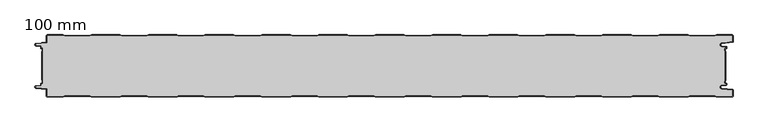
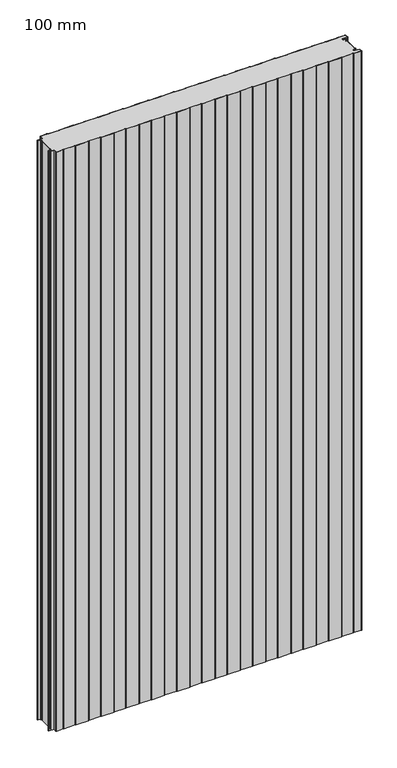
"""IFC4 building model written with IfcOpenShell, lengths in millimetres: plate geometry, HIANSA PANEL - H20.F03.001-PANEL FRIGORÍFICO - PANEL FRIGO - Panel de Muro Cortina : 100 mm."""

from ifc_helpers import new_model, si_unit, point, frame_2d, origin, origin_with_axes, place, context, project, spatial, polyline, circle_curve, trimmed, segment, composite_curve, outline, extrude, source, transform, mapped, element, save


def plate_100_mm_e887709b(model_context):
    return source(origin(), model_context, "Body", "SweptSolid", [
        extrude(outline(polyline([(555.9827922, -74.0), (555.9827922, -26.0), (556.4221321, -26.6713576), (556.4221321, -73.3286424), (555.9827922, -74.0)])), origin_with_axes(), (0.0, 0.0, 1.0), 2200.0),
        extrude(outline(polyline([(-538.5172078, -26.0), (-538.5172078, -74.0), (-539.1172077, -72.9695032), (-539.1172077, -27.0304968), (-538.5172078, -26.0)])), origin_with_axes(), (0.0, 0.0, 1.0), 2200.0),
        extrude(outline(composite_curve([segment(polyline([(-370.9360691, -1.5), (-411.0983467, -1.5), (-414.0983467, -0.5), (-458.9360691, -0.5), (-461.9360691, -1.5), (-502.0983467, -1.5), (-505.0983467, -0.5), (-529.9172079, -0.5)]), True, "CONTINUOUS"), segment(trimmed(circle_curve(frame_2d((-529.9172079, -1.6)), 1.1), [point((-529.9172079, -0.5))], [point((-531.0172079, -1.6))], True, "CARTESIAN"), True, "CONTINUOUS"), segment(polyline([(-531.0172079, -1.6), (-531.0172079, -11.7987531)]), True, "CONTINUOUS"), segment(trimmed(circle_curve(frame_2d((-532.0172079, -11.7987531)), 1.0), [point((-531.0172079, -11.7987531))], [point((-531.9177042, -12.7937903))], False, "CARTESIAN"), True, "CONTINUOUS"), segment(polyline([(-531.9177042, -12.7937903), (-548.0592062, -14.4079404)]), True, "CONTINUOUS"), segment(trimmed(circle_curve(frame_2d((-547.9000002, -15.9999999)), 1.6), [point((-548.0592062, -14.4079404))], [point((-548.0592062, -17.5920594))], True, "CARTESIAN"), True, "CONTINUOUS"), segment(polyline([(-548.0592062, -17.5920594), (-541.4177042, -18.2562097)]), True, "CONTINUOUS"), segment(trimmed(circle_curve(frame_2d((-541.5172079, -19.2512469)), 1.0), [point((-541.4177042, -18.2562097))], [point((-540.5172079, -19.2512469))], False, "CARTESIAN"), True, "CONTINUOUS"), segment(polyline([(-540.5172079, -19.2512469), (-540.5172079, -21.5), (-539.0172079, -21.5)]), True, "CONTINUOUS"), segment(trimmed(circle_curve(frame_2d((-539.0172079, -22.5)), 1.0), [point((-539.0172079, -21.5))], [point((-538.0172079, -22.5))], False, "CARTESIAN"), True, "CONTINUOUS"), segment(polyline([(-538.0172079, -22.5), (-538.0172079, -25.1412526), (-538.5172079, -26.0), (-538.5172079, -22.0), (-540.0172079, -22.0)]), True, "CONTINUOUS"), segment(trimmed(circle_curve(frame_2d((-540.0172079, -21.0)), 1.0), [point((-540.0172079, -22.0))], [point((-541.0172079, -21.0))], False, "CARTESIAN"), True, "CONTINUOUS"), segment(polyline([(-541.0172079, -21.0), (-541.0172079, -18.7987531), (-548.1089579, -18.0895783)]), True, "CONTINUOUS"), segment(trimmed(circle_curve(frame_2d((-547.9000002, -16.0000002)), 2.1), [point((-548.1089579, -18.0895783))], [point((-548.108958, -13.9104221))], False, "CARTESIAN"), True, "CONTINUOUS"), segment(polyline([(-548.108958, -13.9104221), (-531.5172079, -12.2512469), (-531.5172079, -1.6)]), True, "CONTINUOUS"), segment(trimmed(circle_curve(frame_2d((-529.9172079, -1.6)), 1.6), [point((-531.5172079, -1.6))], [point((-529.9172079, 0.0))], False, "CARTESIAN"), True, "CONTINUOUS"), segment(polyline([(-529.9172079, 0.0), (-505.0172079, 0.0), (-502.0172079, -1.0), (-462.0172079, -1.0), (-459.0172079, 0.0), (-414.0172079, 0.0), (-411.0172079, -1.0), (-371.0172079, -1.0), (-368.0172079, 0.0), (-323.0172079, 0.0), (-320.0172079, -1.0), (-280.0172079, -1.0), (-277.0172079, 0.0), (-232.0172079, 0.0), (-229.0172079, -1.0), (-189.0172079, -1.0), (-186.0172079, 0.0), (-141.0172079, 0.0), (-138.0172079, -1.0), (-98.0172079, -1.0), (-95.0172079, 0.0), (-50.0172079, 0.0), (-47.0172079, -1.0), (-7.0172079, -1.0), (-4.0172079, 0.0), (40.9827921, 0.0), (43.9827921, -1.0), (83.9827921, -1.0), (86.9827921, 0.0), (131.9827921, 0.0), (134.9827921, -1.0), (174.9827921, -1.0), (177.9827921, 0.0), (222.9827921, 0.0), (225.9827921, -1.0), (265.9827921, -1.0), (268.9827921, 0.0), (313.9827921, 0.0), (316.9827921, -1.0), (356.9827921, -1.0), (359.9827921, 0.0), (404.9827921, 0.0), (407.9827921, -1.0), (447.9827921, -1.0), (450.9827921, 0.0), (495.9827921, 0.0), (498.9827921, -1.0), (538.9827921, -1.0), (541.9827921, 0.0), (566.8827921, 0.0)]), True, "CONTINUOUS"), segment(trimmed(circle_curve(frame_2d((566.8827921, -1.6)), 1.6), [point((566.8827921, 0.0))], [point((568.4827921, -1.6))], False, "CARTESIAN"), True, "CONTINUOUS"), segment(polyline([(568.4827921, -1.6), (568.4827921, -11.0950124)]), True, "CONTINUOUS"), segment(trimmed(circle_curve(frame_2d((567.4827921, -11.0950124)), 1.0), [point((568.4827921, -11.0950124))], [point((567.5822958, -12.0900496))], False, "CARTESIAN"), True, "CONTINUOUS"), segment(polyline([(567.5822958, -12.0900496), (550.2837847, -13.8199007)]), True, "CONTINUOUS"), segment(trimmed(circle_curve(frame_2d((550.5873461, -16.0)), 2.2011321), [point((550.2837847, -13.8199007))], [point((550.2837847, -18.1800993))], True, "CARTESIAN"), True, "CONTINUOUS"), segment(polyline([(550.2837847, -18.1800993), (557.5822958, -18.9099504)]), True, "CONTINUOUS"), segment(trimmed(circle_curve(frame_2d((557.4827921, -19.9049876)), 1.0), [point((557.5822958, -18.9099504))], [point((558.4827921, -19.9049876))], False, "CARTESIAN"), True, "CONTINUOUS"), segment(polyline([(558.4827921, -19.9049876), (558.4827921, -21.0)]), True, "CONTINUOUS"), segment(trimmed(circle_curve(frame_2d((557.4827921, -21.0)), 1.0), [point((558.4827921, -21.0))], [point((557.4827921, -22.0))], False, "CARTESIAN"), True, "CONTINUOUS"), segment(polyline([(557.4827921, -22.0), (555.9827921, -22.0), (555.9827921, -26.0), (555.4827921, -25.2359473), (555.4827921, -22.5)]), True, "CONTINUOUS"), segment(trimmed(circle_curve(frame_2d((556.4827921, -22.5)), 1.0), [point((555.4827921, -22.5))], [point((556.4827921, -21.5))], False, "CARTESIAN"), True, "CONTINUOUS"), segment(polyline([(556.4827921, -21.5), (557.9827921, -21.5), (557.9827921, -19.4524938), (550.2340328, -18.6776179)]), True, "CONTINUOUS"), segment(trimmed(circle_curve(frame_2d((550.5859823, -16.0)), 2.7006492), [point((550.2340328, -18.6776179))], [point((550.2340328, -13.3223821))], False, "CARTESIAN"), True, "CONTINUOUS"), segment(polyline([(550.2340328, -13.3223821), (567.9827921, -11.5475062), (567.9827921, -1.6)]), True, "CONTINUOUS"), segment(trimmed(circle_curve(frame_2d((566.8827921, -1.6)), 1.1), [point((567.9827921, -1.6))], [point((566.8827921, -0.5))], True, "CARTESIAN"), True, "CONTINUOUS"), segment(polyline([(566.8827921, -0.5), (542.0639309, -0.5), (539.0639309, -1.5), (498.9016533, -1.5), (495.9016533, -0.5), (451.0639309, -0.5), (448.0639309, -1.5), (407.9016533, -1.5), (404.9016533, -0.5), (360.0639309, -0.5), (357.0639309, -1.5), (316.9016533, -1.5), (313.9016533, -0.5), (269.0639309, -0.5), (266.0639309, -1.5), (225.9016533, -1.5), (222.9016533, -0.5), (178.0639309, -0.5), (175.0639309, -1.5), (134.9016533, -1.5), (131.9016533, -0.5), (87.0639309, -0.5), (84.0639309, -1.5), (43.9016533, -1.5), (40.9016533, -0.5), (-3.9360691, -0.5), (-6.9360691, -1.5), (-47.0983467, -1.5), (-50.0983467, -0.5), (-94.9360691, -0.5), (-97.9360691, -1.5), (-138.0983467, -1.5), (-141.0983467, -0.5), (-185.9360691, -0.5), (-188.9360691, -1.5), (-229.0983467, -1.5), (-232.0983467, -0.5), (-276.9360691, -0.5), (-279.9360691, -1.5), (-320.0983467, -1.5), (-323.0983467, -0.5), (-367.9360691, -0.5), (-370.9360691, -1.5)]), True, "CONTINUOUS")], self_intersect=False)), origin_with_axes(), (0.0, 0.0, 1.0), 2200.0),
        extrude(outline(composite_curve([segment(polyline([(-370.9360691, -98.5), (-367.9360691, -99.5), (-323.0983467, -99.5), (-320.0983467, -98.5), (-279.9360691, -98.5), (-276.9360691, -99.5), (-232.0983467, -99.5), (-229.0983467, -98.5), (-188.9360691, -98.5), (-185.9360691, -99.5), (-141.0983467, -99.5), (-138.0983467, -98.5), (-97.9360691, -98.5), (-94.9360691, -99.5), (-50.0983467, -99.5), (-47.0983467, -98.5), (-6.9360691, -98.5), (-3.9360691, -99.5), (40.9016533, -99.5), (43.9016533, -98.5), (84.0639309, -98.5), (87.0639309, -99.5), (131.9016533, -99.5), (134.9016533, -98.5), (175.0639309, -98.5), (178.0639309, -99.5), (222.9016533, -99.5), (225.9016533, -98.5), (266.0639309, -98.5), (269.0639309, -99.5), (313.9016533, -99.5), (316.9016533, -98.5), (357.0639309, -98.5), (360.0639309, -99.5), (404.9016533, -99.5), (407.9016533, -98.5), (448.0639309, -98.5), (451.0639309, -99.5), (495.9016533, -99.5), (498.9016533, -98.5), (539.0639309, -98.5), (542.0639309, -99.5), (566.8827921, -99.5)]), True, "CONTINUOUS"), segment(trimmed(circle_curve(frame_2d((566.8827921, -98.4)), 1.1), [point((566.8827921, -99.5))], [point((567.9827921, -98.4))], True, "CARTESIAN"), True, "CONTINUOUS"), segment(polyline([(567.9827921, -98.4), (567.9827921, -88.4524938), (550.2340328, -86.6776179)]), True, "CONTINUOUS"), segment(trimmed(circle_curve(frame_2d((550.5859823, -84.0)), 2.7006492), [point((550.2340328, -86.6776179))], [point((550.2340328, -81.3223821))], False, "CARTESIAN"), True, "CONTINUOUS"), segment(polyline([(550.2340328, -81.3223821), (557.9827921, -80.5475062), (557.9827921, -78.5), (556.4827921, -78.5)]), True, "CONTINUOUS"), segment(trimmed(circle_curve(frame_2d((556.4827921, -77.5)), 1.0), [point((556.4827921, -78.5))], [point((555.4827921, -77.5))], False, "CARTESIAN"), True, "CONTINUOUS"), segment(polyline([(555.4827921, -77.5), (555.4827921, -74.7640527), (555.9827921, -74.0), (555.9827921, -78.0), (557.4827921, -78.0)]), True, "CONTINUOUS"), segment(trimmed(circle_curve(frame_2d((557.4827921, -79.0)), 1.0), [point((557.4827921, -78.0))], [point((558.4827921, -79.0))], False, "CARTESIAN"), True, "CONTINUOUS"), segment(polyline([(558.4827921, -79.0), (558.4827921, -80.0950124)]), True, "CONTINUOUS"), segment(trimmed(circle_curve(frame_2d((557.4827921, -80.0950124)), 1.0), [point((558.4827921, -80.0950124))], [point((557.5822958, -81.0900496))], False, "CARTESIAN"), True, "CONTINUOUS"), segment(polyline([(557.5822958, -81.0900496), (550.2837847, -81.8199007)]), True, "CONTINUOUS"), segment(trimmed(circle_curve(frame_2d((550.5873461, -84.0)), 2.2011321), [point((550.2837847, -81.8199007))], [point((550.2837847, -86.1800993))], True, "CARTESIAN"), True, "CONTINUOUS"), segment(polyline([(550.2837847, -86.1800993), (567.5822958, -87.9099504)]), True, "CONTINUOUS"), segment(trimmed(circle_curve(frame_2d((567.4827921, -88.9049876)), 1.0), [point((567.5822958, -87.9099504))], [point((568.4827921, -88.9049876))], False, "CARTESIAN"), True, "CONTINUOUS"), segment(polyline([(568.4827921, -88.9049876), (568.4827921, -98.4)]), True, "CONTINUOUS"), segment(trimmed(circle_curve(frame_2d((566.8827921, -98.4)), 1.6), [point((568.4827921, -98.4))], [point((566.8827921, -100.0))], False, "CARTESIAN"), True, "CONTINUOUS"), segment(polyline([(566.8827921, -100.0), (541.9827921, -100.0), (538.9827921, -99.0), (498.9827921, -99.0), (495.9827921, -100.0), (450.9827921, -100.0), (447.9827921, -99.0), (407.9827921, -99.0), (404.9827921, -100.0), (359.9827921, -100.0), (356.9827921, -99.0), (316.9827921, -99.0), (313.9827921, -100.0), (268.9827921, -100.0), (265.9827921, -99.0), (225.9827921, -99.0), (222.9827921, -100.0), (177.9827921, -100.0), (174.9827921, -99.0), (134.9827921, -99.0), (131.9827921, -100.0), (86.9827921, -100.0), (83.9827921, -99.0), (43.9827921, -99.0), (40.9827921, -100.0), (-4.0172079, -100.0), (-7.0172079, -99.0), (-47.0172079, -99.0), (-50.0172079, -100.0), (-95.0172079, -100.0), (-98.0172079, -99.0), (-138.0172079, -99.0), (-141.0172079, -100.0), (-186.0172079, -100.0), (-189.0172079, -99.0), (-229.0172079, -99.0), (-232.0172079, -100.0), (-277.0172079, -100.0), (-280.0172079, -99.0), (-320.0172079, -99.0), (-323.0172079, -100.0), (-368.0172079, -100.0), (-371.0172079, -99.0), (-411.0172079, -99.0), (-414.0172079, -100.0), (-459.0172079, -100.0), (-462.0172079, -99.0), (-502.0172079, -99.0), (-505.0172079, -100.0), (-529.9172079, -100.0)]), True, "CONTINUOUS"), segment(trimmed(circle_curve(frame_2d((-529.9172079, -98.4)), 1.6), [point((-529.9172079, -100.0))], [point((-531.5172079, -98.4))], False, "CARTESIAN"), True, "CONTINUOUS"), segment(polyline([(-531.5172079, -98.4), (-531.5172079, -87.7487531), (-548.108958, -86.0895779)]), True, "CONTINUOUS"), segment(trimmed(circle_curve(frame_2d((-547.9000002, -83.9999998)), 2.1), [point((-548.108958, -86.0895779))], [point((-548.1089579, -81.9104217))], False, "CARTESIAN"), True, "CONTINUOUS"), segment(polyline([(-548.1089579, -81.9104217), (-541.0172079, -81.2012469), (-541.0172079, -79.0)]), True, "CONTINUOUS"), segment(trimmed(circle_curve(frame_2d((-540.0172079, -79.0)), 1.0), [point((-541.0172079, -79.0))], [point((-540.0172079, -78.0))], False, "CARTESIAN"), True, "CONTINUOUS"), segment(polyline([(-540.0172079, -78.0), (-538.5172079, -78.0), (-538.5172079, -74.0), (-538.0172079, -74.8587474), (-538.0172079, -77.5)]), True, "CONTINUOUS"), segment(trimmed(circle_curve(frame_2d((-539.0172079, -77.5)), 1.0), [point((-538.0172079, -77.5))], [point((-539.0172079, -78.5))], False, "CARTESIAN"), True, "CONTINUOUS"), segment(polyline([(-539.0172079, -78.5), (-540.5172079, -78.5), (-540.5172079, -80.7487531)]), True, "CONTINUOUS"), segment(trimmed(circle_curve(frame_2d((-541.5172079, -80.7487531)), 1.0), [point((-540.5172079, -80.7487531))], [point((-541.4177042, -81.7437903))], False, "CARTESIAN"), True, "CONTINUOUS"), segment(polyline([(-541.4177042, -81.7437903), (-548.0592062, -82.4079406)]), True, "CONTINUOUS"), segment(trimmed(circle_curve(frame_2d((-547.9000002, -84.0000001)), 1.6), [point((-548.0592062, -82.4079406))], [point((-548.0592062, -85.5920596))], True, "CARTESIAN"), True, "CONTINUOUS"), segment(polyline([(-548.0592062, -85.5920596), (-531.9177042, -87.2062097)]), True, "CONTINUOUS"), segment(trimmed(circle_curve(frame_2d((-532.0172079, -88.2012469)), 1.0), [point((-531.9177042, -87.2062097))], [point((-531.0172079, -88.2012469))], False, "CARTESIAN"), True, "CONTINUOUS"), segment(polyline([(-531.0172079, -88.2012469), (-531.0172079, -98.4)]), True, "CONTINUOUS"), segment(trimmed(circle_curve(frame_2d((-529.9172079, -98.4)), 1.1), [point((-531.0172079, -98.4))], [point((-529.9172079, -99.5))], True, "CARTESIAN"), True, "CONTINUOUS"), segment(polyline([(-529.9172079, -99.5), (-505.0983467, -99.5), (-502.0983467, -98.5), (-461.9360691, -98.5), (-458.9360691, -99.5), (-414.0983467, -99.5), (-411.0983467, -98.5), (-370.9360691, -98.5)]), True, "CONTINUOUS")], self_intersect=False)), origin_with_axes(), (0.0, 0.0, 1.0), 2200.0),
        extrude(outline(composite_curve([segment(polyline([(-461.9360691, -1.5), (-458.9360691, -0.5), (-414.0983467, -0.5), (-411.0983467, -1.5), (-370.9360691, -1.5), (-367.9360691, -0.5), (-323.0983467, -0.5), (-320.0983467, -1.5), (-279.9360691, -1.5), (-276.9360691, -0.5), (-232.0983467, -0.5), (-229.0983467, -1.5), (-188.9360691, -1.5), (-185.9360691, -0.5), (-141.0983467, -0.5), (-138.0983467, -1.5), (-97.9360691, -1.5), (-94.9360691, -0.5), (-50.0983467, -0.5), (-47.0983467, -1.5), (-6.9360691, -1.5), (-3.9360691, -0.5), (40.9016533, -0.5), (43.9016533, -1.5), (84.0639309, -1.5), (87.0639309, -0.5), (131.9016533, -0.5), (134.9016533, -1.5), (175.0639309, -1.5), (178.0639309, -0.5), (222.9016533, -0.5), (225.9016533, -1.5), (266.0639309, -1.5), (269.0639309, -0.5), (313.9016533, -0.5), (316.9016533, -1.5), (357.0639309, -1.5), (360.0639309, -0.5), (404.9016533, -0.5), (407.9016533, -1.5), (448.0639309, -1.5), (451.0639309, -0.5), (495.9016533, -0.5), (498.9016533, -1.5), (539.0639309, -1.5), (542.0639309, -0.5), (566.8827921, -0.5)]), True, "CONTINUOUS"), segment(trimmed(circle_curve(frame_2d((566.8827921, -1.6)), 1.1), [point((566.8827921, -0.5))], [point((567.9827921, -1.6))], False, "CARTESIAN"), True, "CONTINUOUS"), segment(polyline([(567.9827921, -1.6), (567.9827921, -11.5475062), (550.2340328, -13.3223821)]), True, "CONTINUOUS"), segment(trimmed(circle_curve(frame_2d((550.5859823, -16.0)), 2.7006492), [point((550.2340328, -13.3223821))], [point((550.2340328, -18.6776179))], True, "CARTESIAN"), True, "CONTINUOUS"), segment(polyline([(550.2340328, -18.6776179), (557.9827921, -19.4524938), (557.9827921, -21.5), (556.4827921, -21.5)]), True, "CONTINUOUS"), segment(trimmed(circle_curve(frame_2d((556.4827921, -22.5)), 1.0), [point((556.4827921, -21.5))], [point((555.4827921, -22.5))], True, "CARTESIAN"), True, "CONTINUOUS"), segment(polyline([(555.4827921, -22.5), (555.4827921, -25.2359473), (555.9827921, -26.0), (555.9827921, -74.0), (555.4827921, -74.7640527), (555.4827921, -77.5)]), True, "CONTINUOUS"), segment(trimmed(circle_curve(frame_2d((556.4827921, -77.5)), 1.0), [point((555.4827921, -77.5))], [point((556.4827921, -78.5))], True, "CARTESIAN"), True, "CONTINUOUS"), segment(polyline([(556.4827921, -78.5), (557.9827921, -78.5), (557.9827921, -80.5475062), (550.2340328, -81.3223821)]), True, "CONTINUOUS"), segment(trimmed(circle_curve(frame_2d((550.5859823, -84.0)), 2.7006492), [point((550.2340328, -81.3223821))], [point((550.2340328, -86.6776179))], True, "CARTESIAN"), True, "CONTINUOUS"), segment(polyline([(550.2340328, -86.6776179), (567.9827921, -88.4524938), (567.9827921, -98.4)]), True, "CONTINUOUS"), segment(trimmed(circle_curve(frame_2d((566.8827921, -98.4)), 1.1), [point((567.9827921, -98.4))], [point((566.8827921, -99.5))], False, "CARTESIAN"), True, "CONTINUOUS"), segment(polyline([(566.8827921, -99.5), (542.0639309, -99.5), (539.0639309, -98.5), (498.9016533, -98.5), (495.9016533, -99.5), (451.0639309, -99.5), (448.0639309, -98.5), (407.9016533, -98.5), (404.9016533, -99.5), (360.0639309, -99.5), (357.0639309, -98.5), (316.9016533, -98.5), (313.9016533, -99.5), (269.0639309, -99.5), (266.0639309, -98.5), (225.9016533, -98.5), (222.9016533, -99.5), (178.0639309, -99.5), (175.0639309, -98.5), (134.9016533, -98.5), (131.9016533, -99.5), (87.0639309, -99.5), (84.0639309, -98.5), (43.9016533, -98.5), (40.9016533, -99.5), (-3.9360691, -99.5), (-6.9360691, -98.5), (-47.0983467, -98.5), (-50.0983467, -99.5), (-94.9360691, -99.5), (-97.9360691, -98.5), (-138.0983467, -98.5), (-141.0983467, -99.5), (-185.9360691, -99.5), (-188.9360691, -98.5), (-229.0983467, -98.5), (-232.0983467, -99.5), (-276.9360691, -99.5), (-279.9360691, -98.5), (-320.0983467, -98.5), (-323.0983467, -99.5), (-367.9360691, -99.5), (-370.9360691, -98.5), (-411.0983467, -98.5), (-414.0983467, -99.5), (-458.9360691, -99.5), (-461.9360691, -98.5), (-502.0983467, -98.5), (-505.0983467, -99.5), (-529.9172079, -99.5)]), True, "CONTINUOUS"), segment(trimmed(circle_curve(frame_2d((-529.9172079, -98.4)), 1.1), [point((-529.9172079, -99.5))], [point((-531.0172079, -98.4))], False, "CARTESIAN"), True, "CONTINUOUS"), segment(polyline([(-531.0172079, -98.4), (-531.0172079, -88.2012469)]), True, "CONTINUOUS"), segment(trimmed(circle_curve(frame_2d((-532.0172079, -88.2012469)), 1.0), [point((-531.0172079, -88.2012469))], [point((-531.9177042, -87.2062097))], True, "CARTESIAN"), True, "CONTINUOUS"), segment(polyline([(-531.9177042, -87.2062097), (-548.0592062, -85.5920596)]), True, "CONTINUOUS"), segment(trimmed(circle_curve(frame_2d((-547.9000002, -84.0000001)), 1.6), [point((-548.0592062, -85.5920596))], [point((-548.0592062, -82.4079406))], False, "CARTESIAN"), True, "CONTINUOUS"), segment(polyline([(-548.0592062, -82.4079406), (-541.4177042, -81.7437903)]), True, "CONTINUOUS"), segment(trimmed(circle_curve(frame_2d((-541.5172079, -80.7487531)), 1.0), [point((-541.4177042, -81.7437903))], [point((-540.5172079, -80.7487531))], True, "CARTESIAN"), True, "CONTINUOUS"), segment(polyline([(-540.5172079, -80.7487531), (-540.5172079, -78.5), (-539.0172079, -78.5)]), True, "CONTINUOUS"), segment(trimmed(circle_curve(frame_2d((-539.0172079, -77.5)), 1.0), [point((-539.0172079, -78.5))], [point((-538.0172079, -77.5))], True, "CARTESIAN"), True, "CONTINUOUS"), segment(polyline([(-538.0172079, -77.5), (-538.0172079, -74.8587474), (-538.5172079, -74.0), (-538.5172079, -26.0), (-538.0172079, -25.1412526), (-538.0172079, -22.5)]), True, "CONTINUOUS"), segment(trimmed(circle_curve(frame_2d((-539.0172079, -22.5)), 1.0), [point((-538.0172079, -22.5))], [point((-539.0172079, -21.5))], True, "CARTESIAN"), True, "CONTINUOUS"), segment(polyline([(-539.0172079, -21.5), (-540.5172079, -21.5), (-540.5172079, -19.2512469)]), True, "CONTINUOUS"), segment(trimmed(circle_curve(frame_2d((-541.5172079, -19.2512469)), 1.0), [point((-540.5172079, -19.2512469))], [point((-541.4177042, -18.2562097))], True, "CARTESIAN"), True, "CONTINUOUS"), segment(polyline([(-541.4177042, -18.2562097), (-548.0592062, -17.5920594)]), True, "CONTINUOUS"), segment(trimmed(circle_curve(frame_2d((-547.9000002, -15.9999999)), 1.6), [point((-548.0592062, -17.5920594))], [point((-548.0592062, -14.4079404))], False, "CARTESIAN"), True, "CONTINUOUS"), segment(polyline([(-548.0592062, -14.4079404), (-531.9177042, -12.7937903)]), True, "CONTINUOUS"), segment(trimmed(circle_curve(frame_2d((-532.0172079, -11.7987531)), 1.0), [point((-531.9177042, -12.7937903))], [point((-531.0172079, -11.7987531))], True, "CARTESIAN"), True, "CONTINUOUS"), segment(polyline([(-531.0172079, -11.7987531), (-531.0172079, -1.6)]), True, "CONTINUOUS"), segment(trimmed(circle_curve(frame_2d((-529.9172079, -1.6)), 1.1), [point((-531.0172079, -1.6))], [point((-529.9172079, -0.5))], False, "CARTESIAN"), True, "CONTINUOUS"), segment(polyline([(-529.9172079, -0.5), (-505.0983467, -0.5), (-502.0983467, -1.5), (-461.9360691, -1.5)]), True, "CONTINUOUS")], self_intersect=False)), origin_with_axes(), (0.0, 0.0, 1.0), 2200.0),
    ])


if __name__ == "__main__":
    model = new_model("IFC4")
    model_context = context("Model", 3, world=origin())
    ifc_project = project(units=[si_unit("LENGTHUNIT", "METRE", prefix="MILLI")], contexts=[model_context])
    site = spatial("IfcSite", under=ifc_project)
    building = spatial("IfcBuilding", under=site)
    placement = place(None, origin())
    plate_100_mm_shape = plate_100_mm_e887709b(model_context)
    element("IfcPlate", 1, ObjectType="HIANSA PANEL - H20.F03.001-PANEL FRIGORÍFICO - PANEL FRIGO - Panel de Muro Cortina : 100 mm", at=placement, inside=building, context=model_context, shape_type="MappedRepresentation", body=[
        mapped(plate_100_mm_shape, transform((0.0, 0.0, 0.0), x_axis=(1.0, 0.0, 0.0), y_axis=(0.0, 1.0, 0.0), z_axis=(0.0, 0.0, 1.0))),
    ])
    save(model, "model.ifc")
